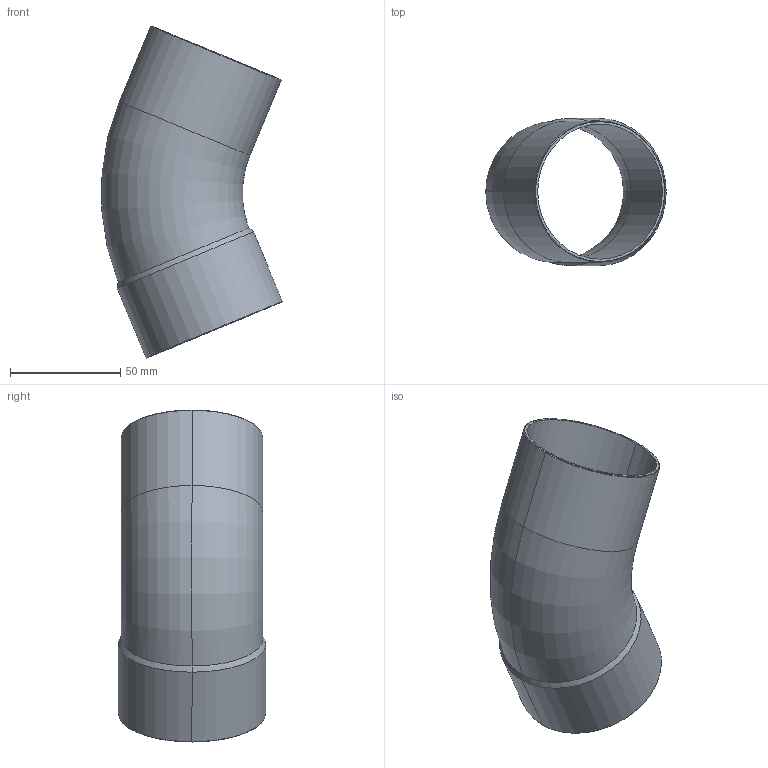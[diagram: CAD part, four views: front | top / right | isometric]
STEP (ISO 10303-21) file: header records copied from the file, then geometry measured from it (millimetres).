
FILE_DESCRIPTION((''),'2;1');
FILE_NAME('P:\Bouwmaten\z-maattekeningen 3D\5000\5040\1504064.stp','2005-10-05T11:52:14',('Kris'),(''),'Autodesk Inventor 8','Autodesk Inventor 8','');
FILE_SCHEMA(('AUTOMOTIVE_DESIGN { 1 0 10303 214 1 1 1 1 }'));
Length unit declared in the file: millimetre
Products named in the file (1): 1504064
Bounding box: 81.79 x 66.8 x 150.45 mm (x, y, z)
Volume: 37048.7 mm3; surface area: 53421.3 mm2
Topology: 1 solids, 1 shells, 24 faces, 50 edges, 28 vertices
Faces by surface type: cone 10, cylinder 8, torus 4, plane 2
Entity records: 729 total; most frequent: CARTESIAN_POINT 179, DIRECTION 124, ORIENTED_EDGE 100, AXIS2_PLACEMENT_3D 53, EDGE_CURVE 50, VERTEX_POINT 28, CIRCLE 28, EDGE_LOOP 26
